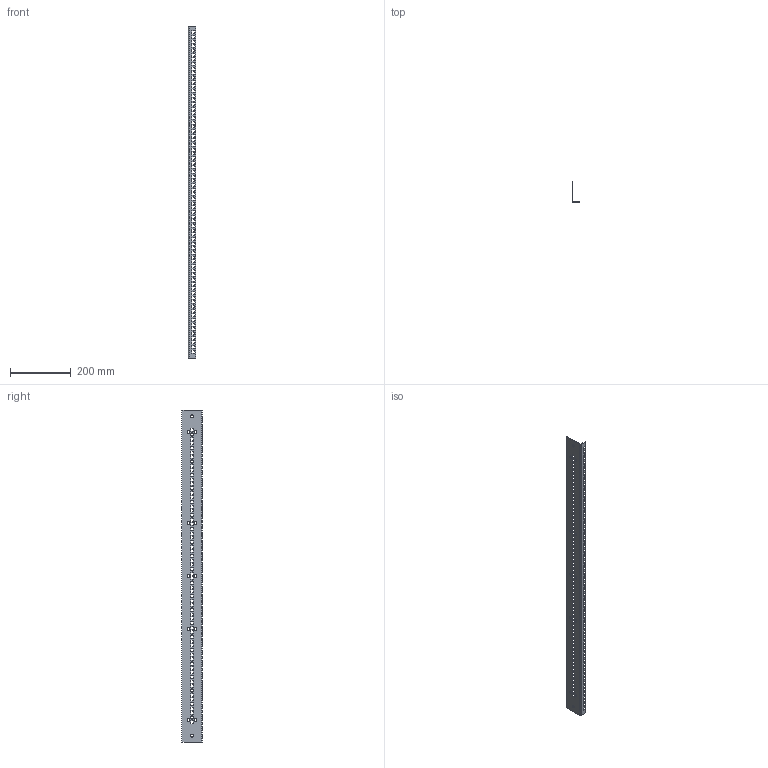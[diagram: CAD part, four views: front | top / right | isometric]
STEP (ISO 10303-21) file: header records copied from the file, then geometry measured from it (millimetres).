
FILE_DESCRIPTION (( 'STEP AP203' ), '1' );
FILE_NAME ('AERL241200.STEP', '2018-03-27T07:14:36', ( '' ), ( '' ), 'SwSTEP 2.0', 'SolidWorks 2017', '' );
FILE_SCHEMA (( 'CONFIG_CONTROL_DESIGN' ));
Length unit declared in the file: millimetre
Products named in the file (1): AERL241200
Bounding box: 24.5 x 66 x 1095 mm (x, y, z)
Volume: 165281.9 mm3; surface area: 181332.5 mm2
Topology: 1 solids, 1 shells, 1010 faces, 3016 edges, 2008 vertices
Faces by surface type: plane 676, cylinder 334
Entity records: 34561 total; most frequent: CARTESIAN_POINT 6035, ORIENTED_EDGE 6032, DIRECTION 5706, EDGE_CURVE 3016, LINE 2348, VECTOR 2348, VERTEX_POINT 2008, AXIS2_PLACEMENT_3D 1679
